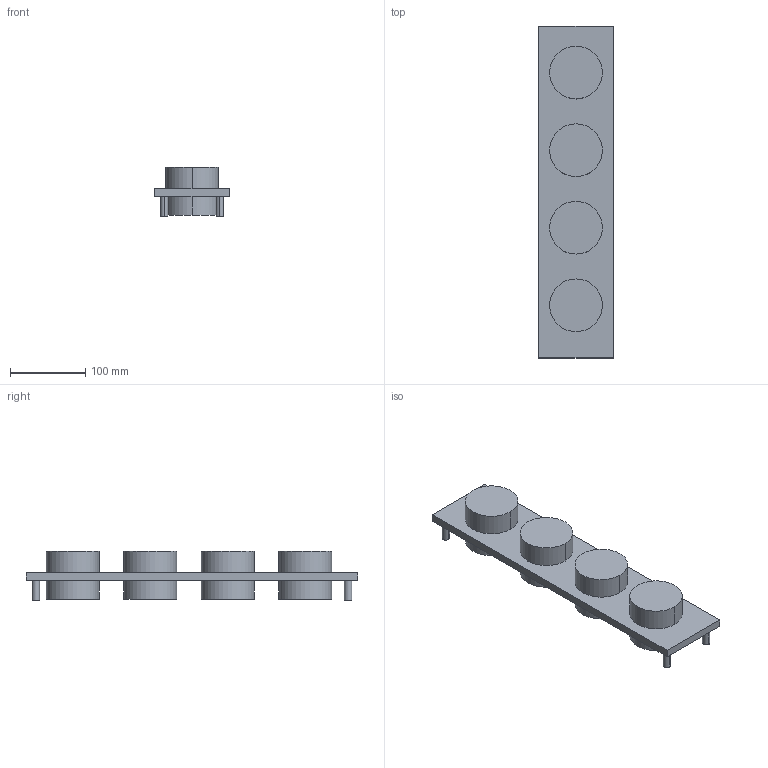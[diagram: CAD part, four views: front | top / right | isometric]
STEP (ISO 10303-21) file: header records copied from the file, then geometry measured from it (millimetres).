
FILE_DESCRIPTION (( 'STEP AP214' ), '1' );
FILE_NAME ('Gewuerzeinsatz.STEP', '2010-10-25T12:28:42', ( 'grass' ), ( '' ), 'SwSTEP 2.0', 'SolidWorks 2010', '' );
FILE_SCHEMA (( 'AUTOMOTIVE_DESIGN' ));
Length unit declared in the file: millimetre
Products named in the file (1): Gewuerzeinsatz
Bounding box: 99 x 441 x 66 mm (x, y, z)
Volume: 1290470.3 mm3; surface area: 149112 mm2
Topology: 1 solids, 1 shells, 42 faces, 84 edges, 56 vertices
Faces by surface type: cylinder 24, plane 18
Entity records: 1150 total; most frequent: DIRECTION 218, CARTESIAN_POINT 183, ORIENTED_EDGE 168, AXIS2_PLACEMENT_3D 91, EDGE_CURVE 84, VERTEX_POINT 56, EDGE_LOOP 54, CIRCLE 48
